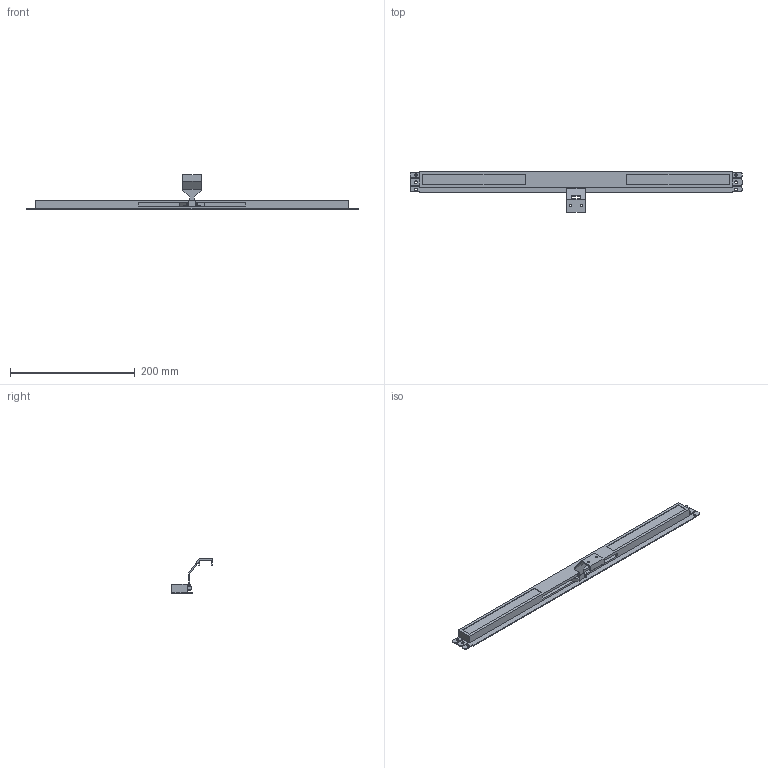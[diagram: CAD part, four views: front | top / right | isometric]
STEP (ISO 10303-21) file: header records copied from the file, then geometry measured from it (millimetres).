
FILE_DESCRIPTION(('STEP AP242'),'1');
FILE_NAME('OPO_51.047.45_volu_schn_3d.stp','2026-03-17T13:40:51',(' '),(' '),'Spatial InterOp 3D',' ',' ');
FILE_SCHEMA(('AP242_MANAGED_MODEL_BASED_3D_ENGINEERING_MIM_LF {1 0 10303 442 1 1 4}'));
Length unit declared in the file: millimetre
Products named in the file (1): 1
Bounding box: 532 x 65.5 x 55 mm (x, y, z)
Volume: 172366.4 mm3; surface area: 90915 mm2
Topology: 5 solids, 5 shells, 204 faces, 1058 edges, 1356 vertices
Faces by surface type: plane 124, cylinder 80
Entity records: 14296 total; most frequent: DIRECTION 1700, CARTESIAN_POINT 1636, ORIENTED_EDGE 1110, LINE 836, VECTOR 836, STYLED_ITEM 707, PRESENTATION_STYLE_ASSIGNMENT 707, COLOUR_RGB 707
